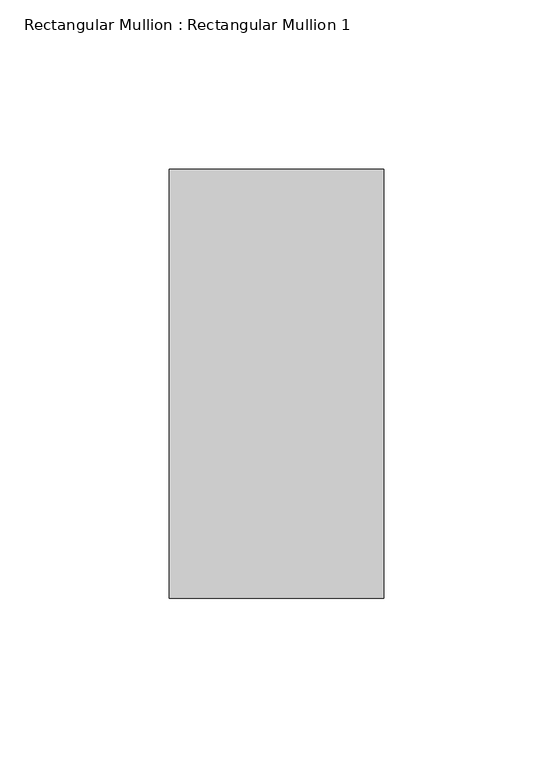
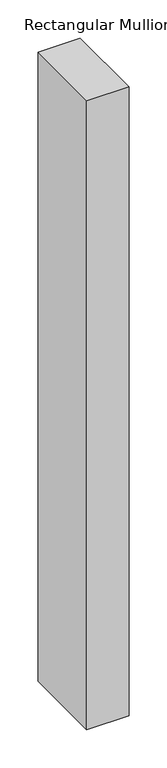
"""IFC4 building model written with IfcOpenShell, lengths in millimetres: member geometry, Rectangular Mullion : Rectangular Mullion 1."""

import ifcopenshell
import ifcopenshell.guid

model = None  # the IFC model being written
_history = None  # IfcOwnerHistory: only IFC2X3 demands one
_inside = {}  # id of a spatial element -> (the spatial element, [elements in it])
_under = {}  # id of a project, library or spatial element -> (it, [spatial elements below it])
_declared = {}  # id of a project -> (the project, [libraries it declares])
_typed = {}  # id of a type object -> (the type object, [elements of that type])
_made_of = {}  # id of a material, layer set ... -> (it, [elements and type objects made of it])


def new_model(schema):
    """Start an empty IFC model of exactly this schema.

    Asked for "IFC4X3", IfcOpenShell would pick the latest addendum, in which some entities
    have other attributes; the version numbers below select the first issue.
    IFC2X3 requires an IfcOwnerHistory on every rooted entity: one is made here for all.
    """
    global model, _history
    if schema == "IFC4X3":
        model = ifcopenshell.file(schema_version=(4, 3, 0, 0))
    else:
        model = ifcopenshell.file(schema=schema)
    _inside.clear()
    _under.clear()
    _declared.clear()
    _typed.clear()
    _made_of.clear()
    _history = None
    if model.schema == "IFC2X3":
        org = make("IfcOrganization", Name="unknown")
        user = make(
            "IfcPersonAndOrganization",
            ThePerson=make("IfcPerson", FamilyName="unknown"),
            TheOrganization=org,
        )
        app = make(
            "IfcApplication",
            ApplicationDeveloper=org,
            Version="unknown",
            ApplicationFullName="unknown",
            ApplicationIdentifier="unknown",
        )
        _history = make(
            "IfcOwnerHistory",
            OwningUser=user,
            OwningApplication=app,
            ChangeAction="ADDED",
            CreationDate=0,
        )
    return model


def make(cls, **values):
    """One entity of the class cls with the attributes given. An attribute that is None is left unset."""
    return model.create_entity(
        cls, **{name: value for name, value in values.items() if value is not None}
    )


def rooted(cls, **values):
    """An entity with a GlobalId (a new one), such as an element, a storey or a relation."""
    return make(cls, GlobalId=ifcopenshell.guid.new(), OwnerHistory=_history, **values)


def si_unit(unit_type, name, prefix=None):
    """IfcSIUnit, for example si_unit("LENGTHUNIT", "METRE", prefix="MILLI")."""
    return make("IfcSIUnit", UnitType=unit_type, Prefix=prefix, Name=name)


def assignment(units):
    """IfcUnitAssignment: the units of a project."""
    return None if units is None else make("IfcUnitAssignment", Units=units)


def point(xyz):
    """IfcCartesianPoint."""
    return None if xyz is None else make("IfcCartesianPoint", Coordinates=xyz)


def direction(xyz):
    """IfcDirection."""
    return None if xyz is None else make("IfcDirection", DirectionRatios=xyz)


def frame(location, z_axis=None, x_axis=None):
    """IfcAxis2Placement3D, a coordinate frame: its origin and axes. An axis left out is left unset."""
    return make(
        "IfcAxis2Placement3D",
        Location=point(location),
        Axis=direction(z_axis),
        RefDirection=direction(x_axis),
    )


def origin():
    """The frame at (0, 0, 0) with its axes left unset."""
    return frame((0.0, 0.0, 0.0))


def place(relative_to, where):
    """IfcLocalPlacement: puts the frame where relative to a parent placement (None: the world)."""
    return make(
        "IfcLocalPlacement", PlacementRelTo=relative_to, RelativePlacement=where
    )


def context(
    kind, dimensions, precision=None, world=None, true_north=None, identifier=None
):
    """IfcGeometricRepresentationContext, for example the 3D "Model" context."""
    return make(
        "IfcGeometricRepresentationContext",
        ContextIdentifier=identifier,
        ContextType=kind,
        CoordinateSpaceDimension=dimensions,
        Precision=precision,
        WorldCoordinateSystem=world,
        TrueNorth=true_north,
    )


def project(units=None, contexts=None):
    """IfcProject with its units and contexts."""
    return rooted(
        "IfcProject",
        Name="project",
        RepresentationContexts=contexts,
        UnitsInContext=assignment(units),
    )


def spatial(cls, under=None, at=None, **own):
    """A site, building, storey or space (cls), placed at a placement, below another one or the project."""
    s = rooted(cls, ObjectPlacement=at, **own)
    if under is not None:
        _under.setdefault(under.id(), (under, []))[1].append(s)
    return s


def polyline(points):
    """IfcPolyline through the points."""
    return make("IfcPolyline", Points=[point(p) for p in points])


def outline(outer, holes=None, kind="AREA"):
    """IfcArbitraryClosedProfileDef: a profile drawn as a closed curve; with holes, ...WithVoids."""
    if holes is None:
        return make("IfcArbitraryClosedProfileDef", ProfileType=kind, OuterCurve=outer)
    return make(
        "IfcArbitraryProfileDefWithVoids",
        ProfileType=kind,
        OuterCurve=outer,
        InnerCurves=holes,
    )


def extrude(swept, where, along, depth):
    """IfcExtrudedAreaSolid: the profile swept, set in the frame where, extruded along a direction by depth."""
    return make(
        "IfcExtrudedAreaSolid",
        SweptArea=swept,
        Position=where,
        ExtrudedDirection=direction(along),
        Depth=depth,
    )


def shape(context_of_items, identifier, shape_type, items):
    """IfcShapeRepresentation: the items that make up one representation, for example the "Body"."""
    return make(
        "IfcShapeRepresentation",
        ContextOfItems=context_of_items,
        RepresentationIdentifier=identifier,
        RepresentationType=shape_type,
        Items=items,
    )


def source(mapping_origin, context_of_items, identifier, shape_type, items):
    """IfcRepresentationMap: a shape defined once, which mapped items show again and again."""
    return make(
        "IfcRepresentationMap",
        MappingOrigin=mapping_origin,
        MappedRepresentation=shape(context_of_items, identifier, shape_type, items),
    )


def transform(
    local_origin,
    x_axis=None,
    y_axis=None,
    z_axis=None,
    scale=None,
    scale2=None,
    scale3=None,
    uniform=True,
):
    """IfcCartesianTransformationOperator3D, or its non-uniform kind. x_axis, y_axis, z_axis: its Axis1, 2, 3."""
    if uniform:
        return make(
            "IfcCartesianTransformationOperator3D",
            Axis1=direction(x_axis),
            Axis2=direction(y_axis),
            LocalOrigin=point(local_origin),
            Scale=scale,
            Axis3=direction(z_axis),
        )
    return make(
        "IfcCartesianTransformationOperator3DnonUniform",
        Axis1=direction(x_axis),
        Axis2=direction(y_axis),
        LocalOrigin=point(local_origin),
        Scale=scale,
        Axis3=direction(z_axis),
        Scale2=scale2,
        Scale3=scale3,
    )


def mapped(mapping_source, mapping_target):
    """IfcMappedItem: shows the shape of a source again, moved by a transform."""
    return make(
        "IfcMappedItem", MappingSource=mapping_source, MappingTarget=mapping_target
    )


def made_of(thing, what):
    """Note that an element or type object is made of a material, layer set ...; save() writes the relation."""
    if what is not None:
        _made_of.setdefault(what.id(), (what, []))[1].append(thing)
    return thing


def element(
    cls,
    number,
    at=None,
    inside=None,
    cuts=None,
    type_object=None,
    material=None,
    context=None,
    identifier="Body",
    shape_type=None,
    held_by="IfcProductDefinitionShape",
    body=None,
    shapes=None,
    **own,
):
    """One element of the class cls, such as IfcWall. Its Tag is "e" and its number.

    at: its placement. inside: the storey or other place that contains it. cuts: it is an
    opening in that element (IfcRelVoidsElement). A single representation is given by context,
    identifier, shape_type and body (its items); several are given by shapes. held_by: the class
    of the entity that holds the representations. save() writes the other relations.
    """
    e = rooted(cls, Tag="e%d" % number, ObjectPlacement=at, **own)
    if body is not None:
        shapes = [shape(context, identifier, shape_type, body)]
    if shapes is not None:
        e.Representation = make(held_by, Representations=shapes)
    if inside is not None:
        _inside.setdefault(inside.id(), (inside, []))[1].append(e)
    if cuts is not None:
        rooted(
            "IfcRelVoidsElement", RelatingBuildingElement=cuts, RelatedOpeningElement=e
        )
    if type_object is not None:
        _typed.setdefault(type_object.id(), (type_object, []))[1].append(e)
    return made_of(e, material)


def aggregate(whole, parts):
    """IfcRelAggregates: a whole, such as a stair, and the parts it consists of."""
    return rooted("IfcRelAggregates", RelatingObject=whole, RelatedObjects=parts)


def save(model, path):
    """Write the relations noted so far, then the file.

    IfcRelAggregates (storeys below a building ...), IfcRelContainedInSpatialStructure (elements
    in a storey), IfcRelDefinesByType, IfcRelAssociatesMaterial and IfcRelDeclares: one each for
    every whole, place, type object, material and project.
    """
    for whole, parts in _under.values():
        aggregate(whole, parts)
    for where, things in _inside.values():
        rooted(
            "IfcRelContainedInSpatialStructure",
            RelatedElements=things,
            RelatingStructure=where,
        )
    for kind, things in _typed.values():
        rooted("IfcRelDefinesByType", RelatedObjects=things, RelatingType=kind)
    for what, things in _made_of.values():
        rooted("IfcRelAssociatesMaterial", RelatedObjects=things, RelatingMaterial=what)
    for by, libraries in _declared.values():
        rooted("IfcRelDeclares", RelatingContext=by, RelatedDefinitions=libraries)
    model.write(path)


def rectangular_mullion_rectangular_mullion_1_ec152034(model_context):
    return source(origin(), model_context, "Body", "SweptSolid", [
        extrude(outline(polyline([(31.75, 63.5), (31.75, -63.5), (-31.75, -63.5), (-31.75, 63.5), (31.75, 63.5)])), frame((0.0, 0.0, -1002.3928571), z_axis=(0.0, 0.0, 1.0), x_axis=(1.0, 0.0, 0.0)), (0.0, 0.0, 1.0), 1002.3928571),
    ])


if __name__ == "__main__":
    model = new_model("IFC4")
    model_context = context("Model", 3, world=origin())
    ifc_project = project(units=[si_unit("LENGTHUNIT", "METRE", prefix="MILLI")], contexts=[model_context])
    site = spatial("IfcSite", under=ifc_project)
    building = spatial("IfcBuilding", under=site)
    placement = place(None, origin())
    rectangular_mullion_rectangular_mullion_1_shape = rectangular_mullion_rectangular_mullion_1_ec152034(model_context)
    element("IfcMember", 1, ObjectType="Rectangular Mullion : Rectangular Mullion 1", at=placement, inside=building, context=model_context, shape_type="MappedRepresentation", body=[
        mapped(rectangular_mullion_rectangular_mullion_1_shape, transform((0.0, 0.0, 0.0), x_axis=(1.0, 0.0, 0.0), y_axis=(0.0, 1.0, 0.0), z_axis=(0.0, 0.0, 1.0))),
    ])
    save(model, "model.ifc")
